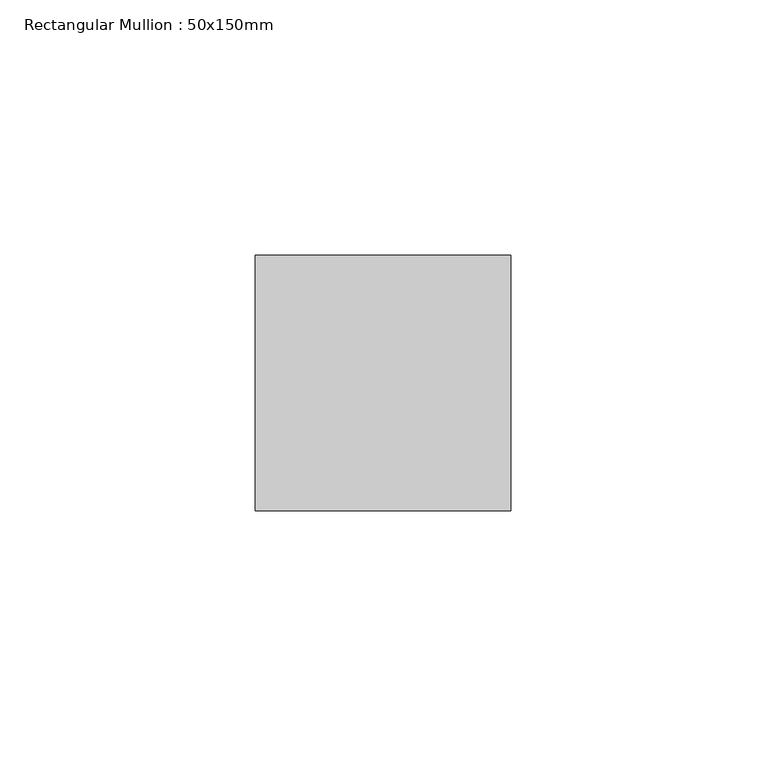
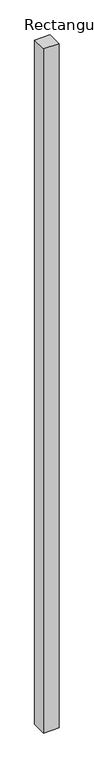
"""IFC4 building model written with IfcOpenShell, lengths in millimetres: member geometry, Rectangular Mullion : 50x150mm."""

from ifc_helpers import new_model, si_unit, frame, origin, place, context, project, spatial, polyline, outline, extrude, source, transform, mapped, element, save


def rectangular_mullion_50x150mm_72788f02(model_context):
    return source(origin(), model_context, "Body", "SweptSolid", [
        extrude(outline(polyline([(25.0, 25.0), (25.0, -25.0), (-25.0, -25.0), (-25.0, 25.0), (25.0, 25.0)])), frame((0.0, 0.0, -2350.0), z_axis=(0.0, 0.0, 1.0), x_axis=(1.0, 0.0, 0.0)), (0.0, 0.0, 1.0), 2350.0),
    ])


if __name__ == "__main__":
    model = new_model("IFC4")
    model_context = context("Model", 3, world=origin())
    ifc_project = project(units=[si_unit("LENGTHUNIT", "METRE", prefix="MILLI")], contexts=[model_context])
    site = spatial("IfcSite", under=ifc_project)
    building = spatial("IfcBuilding", under=site)
    placement = place(None, origin())
    rectangular_mullion_50x150mm_shape = rectangular_mullion_50x150mm_72788f02(model_context)
    element("IfcMember", 1, ObjectType="Rectangular Mullion : 50x150mm", at=placement, inside=building, context=model_context, shape_type="MappedRepresentation", body=[
        mapped(rectangular_mullion_50x150mm_shape, transform((0.0, 0.0, 0.0), x_axis=(1.0, 0.0, 0.0), y_axis=(0.0, 1.0, 0.0), z_axis=(0.0, 0.0, 1.0))),
    ])
    save(model, "model.ifc")
